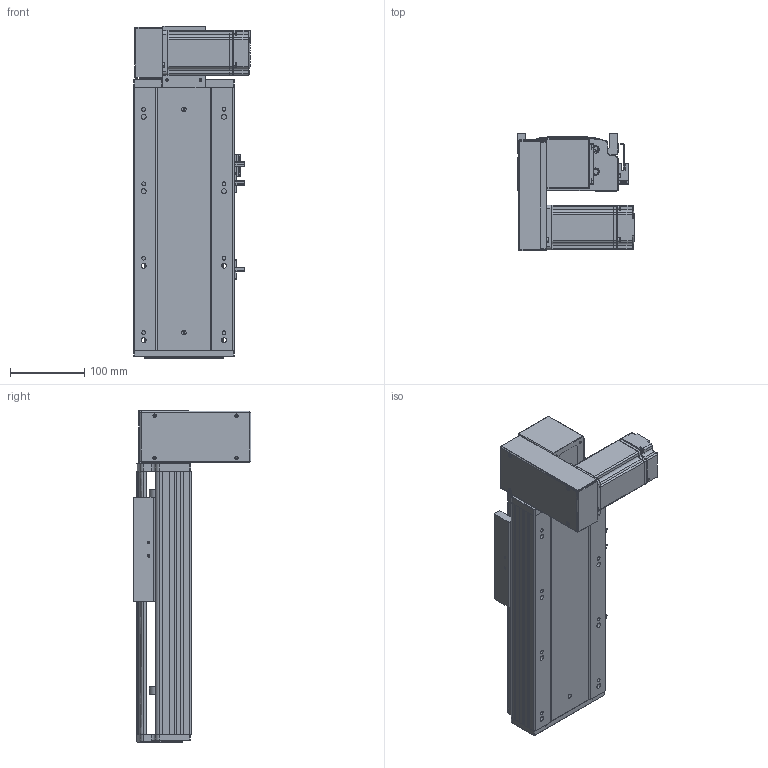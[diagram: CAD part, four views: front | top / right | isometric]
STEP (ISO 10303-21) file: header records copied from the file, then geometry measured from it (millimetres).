
FILE_DESCRIPTION (( 'STEP AP203' ), '1' );
FILE_NAME ('RY140-T-300-DL.SLDASM_100.step', '2021-03-01T06:05:14', ( '盈信电脑' ), ( '东莞市道滘镇水果街19号' ), 'SwSTEP 2.0', 'SolidWorks 2012', '' );
FILE_SCHEMA (( 'CONFIG_CONTROL_DESIGN' ));
Length unit declared in the file: millimetre
Products named in the file (18): RY140-T-300-DL.SLDASM_100; RY140-T翋肮謫裔啣; 滅袉蝶18-10; RY140-T萇儂欶; 侂狟400W侜督萇儂; 15; RY120-T主同步轮轴承压盖; RY120-T蹟翐M4; RY140-T翋肮祭謫盓傅釱; RY120-T肮祭湍揤踡輸1; RY120-T肮祭湍揤踡輸2; RY140-T萇儂假蚾啣; RY140綴裔啣; RY120外置感应片(140共用）; 覜茼ん672; RY140-T-300-DL倰第奻裔啣_100; RY140肮祭謫臏賑輸; RY140-T-300-DL倰第菁釱_100
Assembly tree (23 placements, depth 3):
  RY140-T-300-DL.SLDASM_100
    RY140-T-300-DL倰第菁釱_100
    RY140肮祭謫臏賑輸
    RY140-T-300-DL倰第奻裔啣_100
    RY140綴裔啣
    覜茼ん672  x3
    RY120外置感应片(140共用）
    RY120-T肮祭湍揤踡輸2
    RY120-T肮祭湍揤踡輸1
    RY140-T翋肮祭謫盓傅釱
    RY140-T萇儂假蚾啣
    侂狟400W侜督萇儂
      15
    RY120-T主同步轮轴承压盖
    RY120-T蹟翐M4  x4
    RY140-T萇儂欶
    滅袉蝶18-10  x2
    RY140-T翋肮謫裔啣
Bounding box: 157 x 158.5 x 446 mm (x, y, z)
Volume: 1843392.9 mm3; surface area: 645682.4 mm2
Topology: 22 solids, 22 shells, 2510 faces, 6842 edges, 4428 vertices
Faces by surface type: plane 1389, cylinder 863, cone 158, bspline 100
Entity records: 79324 total; most frequent: CARTESIAN_POINT 19415, ORIENTED_EDGE 12292, DIRECTION 11632, EDGE_CURVE 6146, LINE 4030, VECTOR 4030, VERTEX_POINT 4027, AXIS2_PLACEMENT_3D 3801
